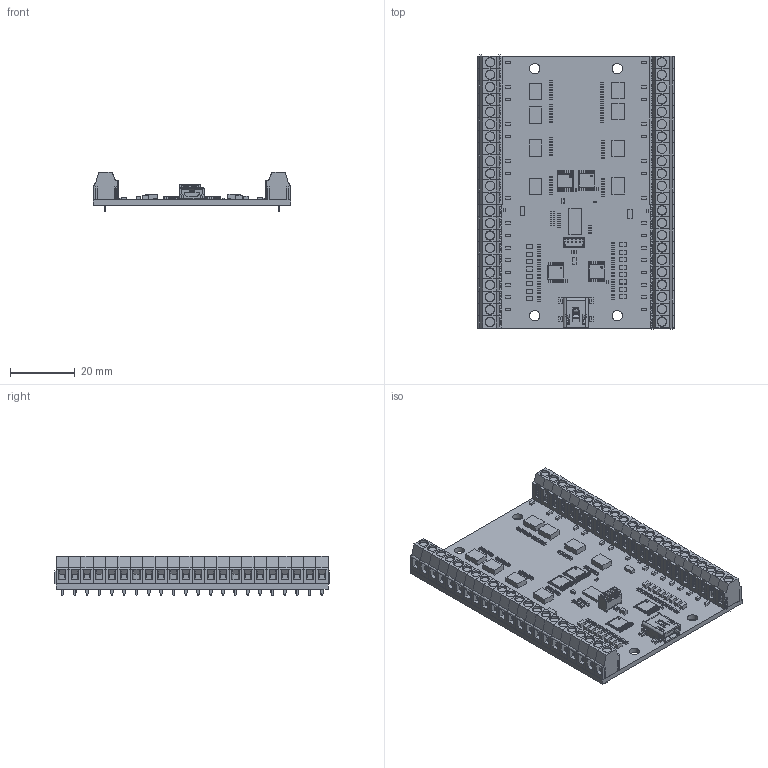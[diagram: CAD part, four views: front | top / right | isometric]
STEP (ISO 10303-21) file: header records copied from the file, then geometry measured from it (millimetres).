
FILE_DESCRIPTION(('Open CASCADE Model'),'2;1');
FILE_NAME('Open CASCADE Shape Model','2022-01-04T14:30:50',('Author'),( 'Open CASCADE'),'Open CASCADE STEP processor 6.8','Open CASCADE 6.8' ,'Unknown');
FILE_SCHEMA(('AUTOMOTIVE_DESIGN { 1 0 10303 214 1 1 1 1 }'));
Length unit declared in the file: millimetre
Products named in the file (206): PCB; Board; R90; 5824120576; Extruded; 5824120384; R52; R13; J5; 1734598-4; R91; R89; R88; R87; R86; R85; R84; R83; R82; R81; R80; R79; R78; R77; R76; U15; SW3dPS-TSSOP-16; U14; C26; 5824120192; 5824120000; C25; C24; R75; R74; R73; R72; R71; R70; R69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
Assembly tree (480 placements, depth 4):
  PCB
    Board
    R90
      5824120576
        Extruded
      5824120384
        Extruded
    R52
      5824120384
        Extruded
      5824120576
        Extruded
    R13
      5824120384
        Extruded
      5824120576
        Extruded
    J5
      1734598-4
    R91
      5824120576
        Extruded
      5824120384
        Extruded
    R89
      5824120576
        Extruded
      5824120384
        Extruded
    R88
      5824120576
        Extruded
      5824120384
        Extruded
    R87
      5824120576
        Extruded
      5824120384
        Extruded
    R86
      5824120576
        Extruded
      5824120384
        Extruded
    R85
      5824120576
        Extruded
      5824120384
        Extruded
    R84
      5824120576
        Extruded
      5824120384
        Extruded
    R83
      5824120576
        Extruded
      5824120384
        Extruded
    R82
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Bounding box: 60.96 x 84.57 x 12.31 mm (x, y, z)
Volume: 17221.8 mm3; surface area: 28453.8 mm2
Topology: 365 solids, 365 shells, 8256 faces, 20705 edges, 13228 vertices
Faces by surface type: plane 6834, cylinder 1256, cone 88, sphere 42, bspline 36
Full cylindrical faces by diameter (mm): 0.508 x4, 1 x2, 1.321 x44, 3.175 x4
Entity records: 43392 total; most frequent: CARTESIAN_POINT 7519, DIRECTION 6839, ORIENTED_EDGE 6258, EDGE_CURVE 3129, LINE 2413, VECTOR 2413, AXIS2_PLACEMENT_3D 2213, VERTEX_POINT 1965
